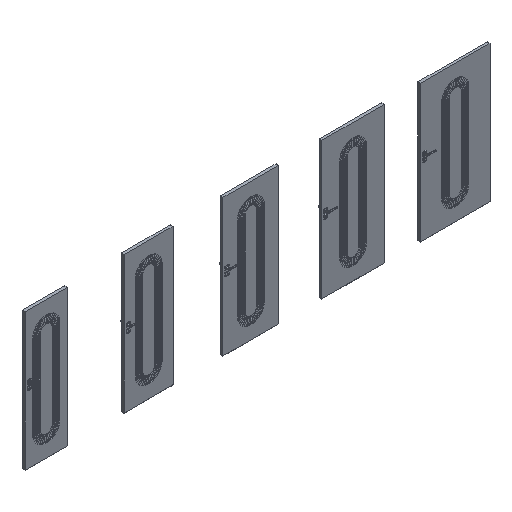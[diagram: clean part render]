
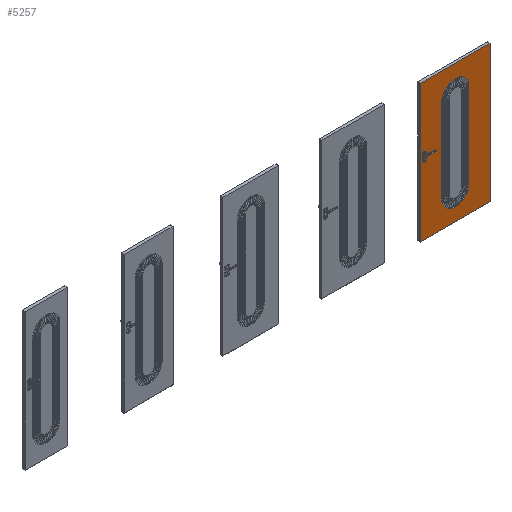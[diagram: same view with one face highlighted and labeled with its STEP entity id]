
A CAD part, isometric view. The second image highlights one B-rep face of the part: STEP entity #5257.
In plain terms, the highlighted planar face has unit normal (0, -1, 0).
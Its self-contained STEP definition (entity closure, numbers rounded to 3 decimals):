
#5257=ADVANCED_FACE('',(#9313,#9314),#6585,.F.);
#6585=PLANE('',#35554);
#8281=CIRCLE('',#35552,199.);
#8282=CIRCLE('',#35553,199.);
#9313=FACE_BOUND('',#10703,.T.);
#9314=FACE_BOUND('',#10704,.T.);
#10703=EDGE_LOOP('',(#16789,#16790,#16791,#16792));
#10704=EDGE_LOOP('',(#16793,#16794,#16795,#16796));
#16789=ORIENTED_EDGE('',*,*,#26435,.T.);
#16790=ORIENTED_EDGE('',*,*,#26436,.T.);
#16791=ORIENTED_EDGE('',*,*,#26437,.F.);
#16792=ORIENTED_EDGE('',*,*,#26438,.F.);
#16793=ORIENTED_EDGE('',*,*,#26439,.F.);
#16794=ORIENTED_EDGE('',*,*,#26440,.F.);
#16795=ORIENTED_EDGE('',*,*,#26441,.F.);
#16796=ORIENTED_EDGE('',*,*,#26442,.T.);
#22655=VERTEX_POINT('',#53732);
#22656=VERTEX_POINT('',#53733);
#22657=VERTEX_POINT('',#53735);
#22658=VERTEX_POINT('',#53737);
#22659=VERTEX_POINT('',#53740);
#22660=VERTEX_POINT('',#53741);
#22661=VERTEX_POINT('',#53743);
#22662=VERTEX_POINT('',#53745);
#26435=EDGE_CURVE('',#22655,#22656,#29775,.T.);
#26436=EDGE_CURVE('',#22656,#22657,#29776,.T.);
#26437=EDGE_CURVE('',#22658,#22657,#29777,.T.);
#26438=EDGE_CURVE('',#22655,#22658,#29778,.T.);
#26439=EDGE_CURVE('',#22659,#22660,#8281,.T.);
#26440=EDGE_CURVE('',#22661,#22659,#29779,.T.);
#26441=EDGE_CURVE('',#22662,#22661,#8282,.T.);
#26442=EDGE_CURVE('',#22662,#22660,#29780,.T.);
#29775=LINE('',#53731,#31985);
#29776=LINE('',#53734,#31986);
#29777=LINE('',#53736,#31987);
#29778=LINE('',#53738,#31988);
#29779=LINE('',#53742,#31989);
#29780=LINE('',#53746,#31990);
#31985=VECTOR('',#43378,1.);
#31986=VECTOR('',#43379,1.);
#31987=VECTOR('',#43380,1.);
#31988=VECTOR('',#43381,1.);
#31989=VECTOR('',#43384,1.);
#31990=VECTOR('',#43387,1.);
#35552=AXIS2_PLACEMENT_3D('',#53739,#43382,#43383);
#35553=AXIS2_PLACEMENT_3D('',#53744,#43385,#43386);
#35554=AXIS2_PLACEMENT_3D('',#53747,#43388,#43389);
#43378=DIRECTION('',(0.,0.,-1.));
#43379=DIRECTION('',(1.,0.,0.));
#43380=DIRECTION('',(0.,0.,-1.));
#43381=DIRECTION('',(1.,0.,0.));
#43382=DIRECTION('',(0.,-1.,0.));
#43383=DIRECTION('',(0.,0.,-1.));
#43384=DIRECTION('',(0.,0.,1.));
#43385=DIRECTION('',(0.,-1.,0.));
#43386=DIRECTION('',(0.,0.,-1.));
#43387=DIRECTION('',(0.,0.,1.));
#43388=DIRECTION('',(0.,1.,0.));
#43389=DIRECTION('',(0.,0.,1.));
#53731=CARTESIAN_POINT('',(5491.,-39.3,2017.));
#53732=CARTESIAN_POINT('',(5491.,-39.3,2017.));
#53733=CARTESIAN_POINT('',(5491.,-39.3,2.));
#53734=CARTESIAN_POINT('',(5691.,-39.3,2.));
#53735=CARTESIAN_POINT('',(6509.,-39.3,2.));
#53736=CARTESIAN_POINT('',(6509.,-39.3,2017.));
#53737=CARTESIAN_POINT('',(6509.,-39.3,2017.));
#53738=CARTESIAN_POINT('',(5691.,-39.3,2017.));
#53739=CARTESIAN_POINT('',(6000.,-39.3,1623.));
#53740=CARTESIAN_POINT('',(6199.,-39.3,1623.));
#53741=CARTESIAN_POINT('',(5801.,-39.3,1623.));
#53742=CARTESIAN_POINT('',(6199.,-39.3,394.));
#53743=CARTESIAN_POINT('',(6199.,-39.3,394.));
#53744=CARTESIAN_POINT('',(6000.,-39.3,394.));
#53745=CARTESIAN_POINT('',(5801.,-39.3,394.));
#53746=CARTESIAN_POINT('',(5801.,-39.3,394.));
#53747=CARTESIAN_POINT('',(5691.,-39.3,2017.));
